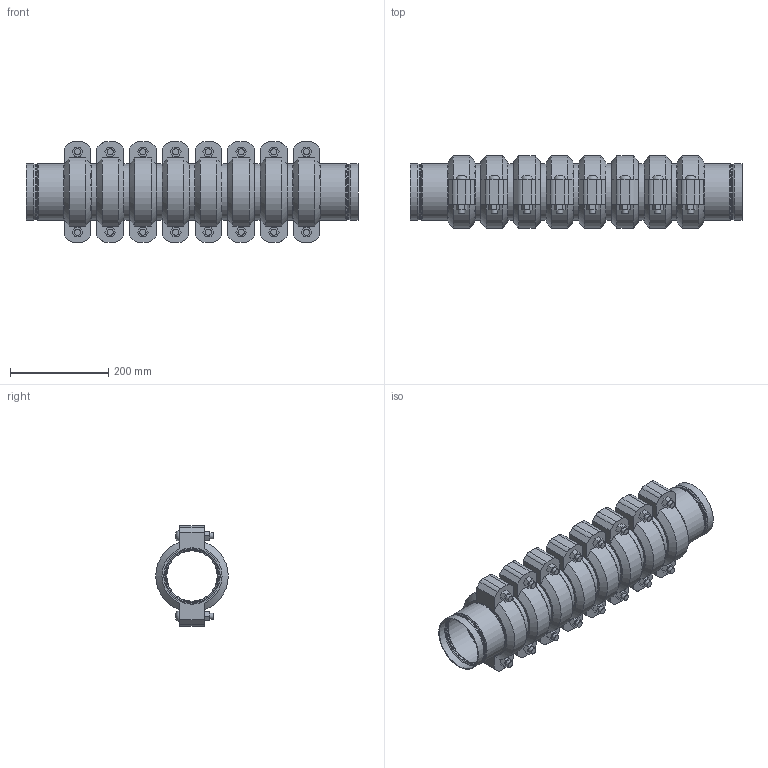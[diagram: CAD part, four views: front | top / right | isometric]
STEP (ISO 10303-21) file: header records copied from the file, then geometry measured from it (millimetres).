
FILE_DESCRIPTION(/* description */ ('VIC STRENGTHIN 100 EXPANSION JOINT 8 COUPLINGS EXPANDED STYLE E155 (ST1)','CAx-IF Rec.Pracs.---Representation and Presentation of Product Manufacturing Information (PMI)---4.0---2014-10-13'),/* implementation_level */ '2;1');
FILE_NAME(/* name */ 'C:\Users\Vjadhav\AppData\Roaming\Autodesk\ApplicationPlugins\Victaulic.Temp\A374\Victaulic_SS-StrengThin 100_Expansion Joint_Expanded_8 Couplings_Style E155 (ST1)_4 (100).stp',/* time_stamp */ '2021-07-23T19:34:33+05:00',/* author */ ('kkamble'),/* organization */ ('Victaulic'),/* preprocessor_version */ 'ST-DEVELOPER v17.2',/* originating_system */ 'Autodesk Inventor 2019',/* authorisation */ '');
FILE_SCHEMA (('AP242_MANAGED_MODEL_BASED_3D_ENGINEERING_MIM_LF { 1 0 10303 442 1 1 4 }'));
Length unit declared in the file: inch
Products named in the file (4): E155-04.0; E494G-04.0; Nipple-04.0; 075-04.0
Assembly tree (17 placements, depth 2):
  E155-04.0
    E494G-04.0  x2
    Nipple-04.0  x7
    075-04.0  x8
Bounding box: 674.88 x 147.32 x 203.96 mm (x, y, z)
Volume: 4749816.5 mm3; surface area: 1112367.9 mm2
Topology: 17 solids, 33 shells, 608 faces, 1496 edges, 1054 vertices
Faces by surface type: plane 342, cylinder 182, cone 36, torus 32, bspline 16
Full cylindrical faces by diameter (mm): 12.7 x32, 14.605 x16, 102.26 x7, 105.639 x2, 106.883 x2, 107.95 x8, 108.839 x2, 110.084 x16, 111.1 x6, 114.3 x43
Entity records: 3798 total; most frequent: DIRECTION 677, CARTESIAN_POINT 663, ORIENTED_EDGE 548, AXIS2_PLACEMENT_3D 289, EDGE_CURVE 274, VERTEX_POINT 197, CIRCLE 167, EDGE_LOOP 129
